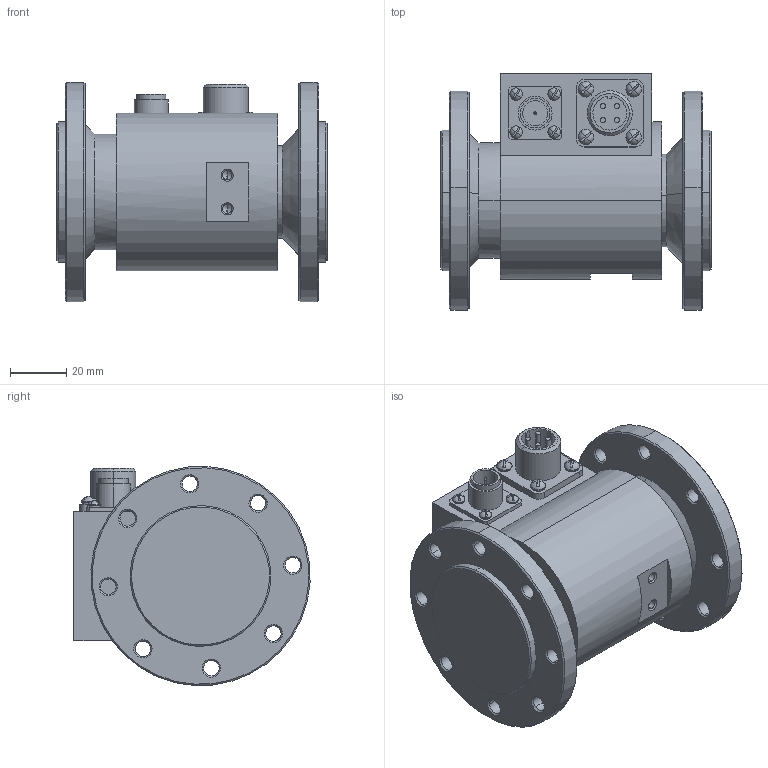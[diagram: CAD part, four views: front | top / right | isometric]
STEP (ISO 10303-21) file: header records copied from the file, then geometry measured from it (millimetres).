
FILE_DESCRIPTION (( 'STEP AP214' ), '1' );
FILE_NAME ('M20C-100.STEP', '2021-10-01T08:09:28', ( '砐錪賧瘔蠈錪 Windows' ), ( '' ), 'SwSTEP 2.0', 'SolidWorks 2019', '' );
FILE_SCHEMA (( 'AUTOMOTIVE_DESIGN' ));
Length unit declared in the file: millimetre
Products named in the file (1): M20C-100
Bounding box: 96 x 83.93 x 77.87 mm (x, y, z)
Volume: 287842.3 mm3; surface area: 47033.5 mm2
Topology: 1 solids, 3 shells, 398 faces, 920 edges, 566 vertices
Faces by surface type: cylinder 155, plane 121, cone 106, sphere 16
Entity records: 16110 total; most frequent: CARTESIAN_POINT 2393, DIRECTION 2092, ORIENTED_EDGE 1832, EDGE_CURVE 916, AXIS2_PLACEMENT_3D 865, VERTEX_POINT 566, EDGE_LOOP 492, CIRCLE 466
